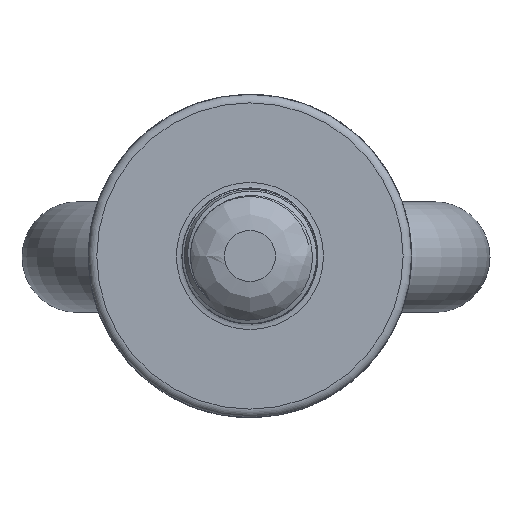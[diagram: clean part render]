
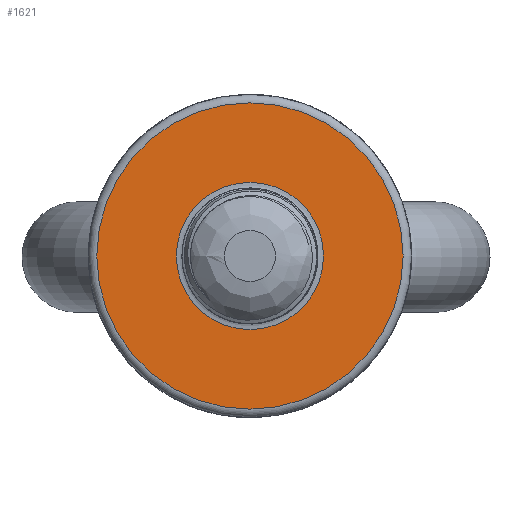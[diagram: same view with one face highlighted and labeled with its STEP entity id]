
A CAD part, front view. The second image highlights one B-rep face of the part: STEP entity #1621.
In plain terms, the highlighted planar face has unit normal (0, -1, 0).
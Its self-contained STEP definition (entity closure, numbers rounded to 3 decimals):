
#194=PLANE('',#4909);
#1621=ADVANCED_FACE('',(#1907,#1908),#194,.F.);
#1907=FACE_BOUND('',#2028,.T.);
#1908=FACE_BOUND('',#2029,.T.);
#2028=EDGE_LOOP('',(#2682));
#2029=EDGE_LOOP('',(#2683));
#2682=ORIENTED_EDGE('',*,*,#4327,.F.);
#2683=ORIENTED_EDGE('',*,*,#4326,.T.);
#3834=VERTEX_POINT('',#8435);
#3835=VERTEX_POINT('',#8438);
#4326=EDGE_CURVE('',#3834,#3834,#4752,.T.);
#4327=EDGE_CURVE('',#3835,#3835,#4753,.T.);
#4752=CIRCLE('',#4906,18.);
#4753=CIRCLE('',#4908,8.65);
#4906=AXIS2_PLACEMENT_3D('',#8434,#5434,#5435);
#4908=AXIS2_PLACEMENT_3D('',#8437,#5438,#5439);
#4909=AXIS2_PLACEMENT_3D('',#8439,#5440,#5441);
#5434=DIRECTION('',(0.,-1.,0.));
#5435=DIRECTION('',(1.,0.,0.));
#5438=DIRECTION('',(0.,-1.,0.));
#5439=DIRECTION('',(1.,0.,0.));
#5440=DIRECTION('',(0.,1.,0.));
#5441=DIRECTION('',(-1.,0.,0.));
#8434=CARTESIAN_POINT('',(0.,5.6,0.));
#8435=CARTESIAN_POINT('',(18.,5.6,0.));
#8437=CARTESIAN_POINT('',(0.,5.6,0.));
#8438=CARTESIAN_POINT('',(8.65,5.6,0.));
#8439=CARTESIAN_POINT('',(18.,5.6,0.));
